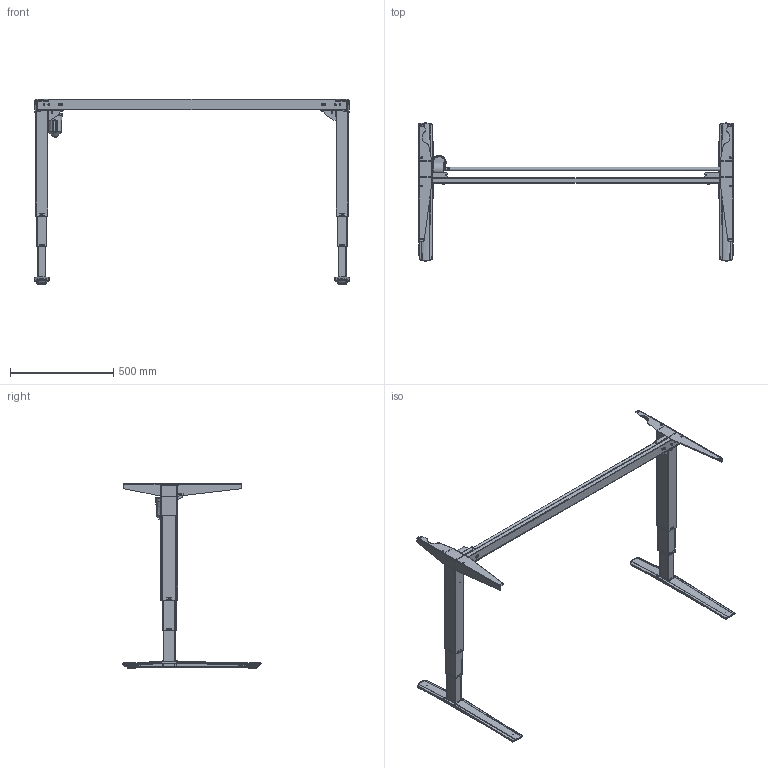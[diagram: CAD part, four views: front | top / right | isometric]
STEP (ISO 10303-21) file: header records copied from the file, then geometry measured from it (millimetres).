
FILE_DESCRIPTION (( 'STEP AP203' ), '1' );
FILE_NAME ('Tech-draw_501-43_XX152.STEP', '2019-09-25T11:16:59', ( '' ), ( '' ), 'SwSTEP 2.0', 'SolidWorks 2018', '' );
FILE_SCHEMA (( 'CONFIG_CONTROL_DESIGN' ));
Length unit declared in the file: millimetre
Products named in the file (34): 148880_501-43 XS152; 340450_shell view; 340520_shell view; 345190_shell view; 344550; 141090_silver; 340560; 345200; 144260_152; 134530_silver1; 341800_silver; 344430_silver; 340460_shell view; 141110_silver1; 141100_silver1; 340510_shell view; 134470_silver1; 141070_silver; 340970; 348720_shell view; 347910_152; Tech-draw_501-43_XX152; 141080_silver; 340540_shell view; 352610; 134500_silver1; 141060_silver; 324520_silver; 347920_152; 341220; 340760; 332570; 344560; 340440
Assembly tree (61 placements, depth 6):
  Tech-draw_501-43_XX152
    148880_501-43 XS152
      347910_152
      144260_152
        347920_152
        340560
        341220
      141070_silver
        134500_silver1
          340440
          340520_shell view
          348720_shell view
          344550
        141090_silver
          141110_silver1
            340460_shell view
            345190_shell view
            345200
          134530_silver1
            340450_shell view
          341800_silver  x4
        341800_silver  x4
        344430_silver
        324520_silver  x2
        352610
      141060_silver
        134470_silver1
          340970
          340510_shell view
          340540_shell view
          344560
        141080_silver
          141100_silver1
            340460_shell view
            345190_shell view
            345200
          134530_silver1
            340450_shell view
          341800_silver  x4
        341800_silver  x4
        324520_silver  x2
      340760  x4
      332570  x4
Bounding box: 1527 x 668.35 x 895.2 mm (x, y, z)
Volume: 2695322 mm3; surface area: 2910685.5 mm2
Topology: 50 solids, 50 shells, 3310 faces, 8617 edges, 5464 vertices
Faces by surface type: plane 1775, cylinder 953, bspline 454, cone 77, torus 51
Full cylindrical faces by diameter (mm): 2.8 x4, 3 x2, 4.6 x4, 5 x4, 6 x10, 7 x8, 7.4 x4, 7.6 x4, 8 x13, 8.05 x4, 10 x8, 11.9 x2, 12 x1, 13 x2, 15 x4, 16 x2, 18 x1, 20 x1, 37.6 x8, 60 x1
Entity records: 99427 total; most frequent: CARTESIAN_POINT 52308, ORIENTED_EDGE 9418, DIRECTION 8197, EDGE_CURVE 4709, VERTEX_POINT 3067, AXIS2_PLACEMENT_3D 2964, LINE 2269, VECTOR 2269
